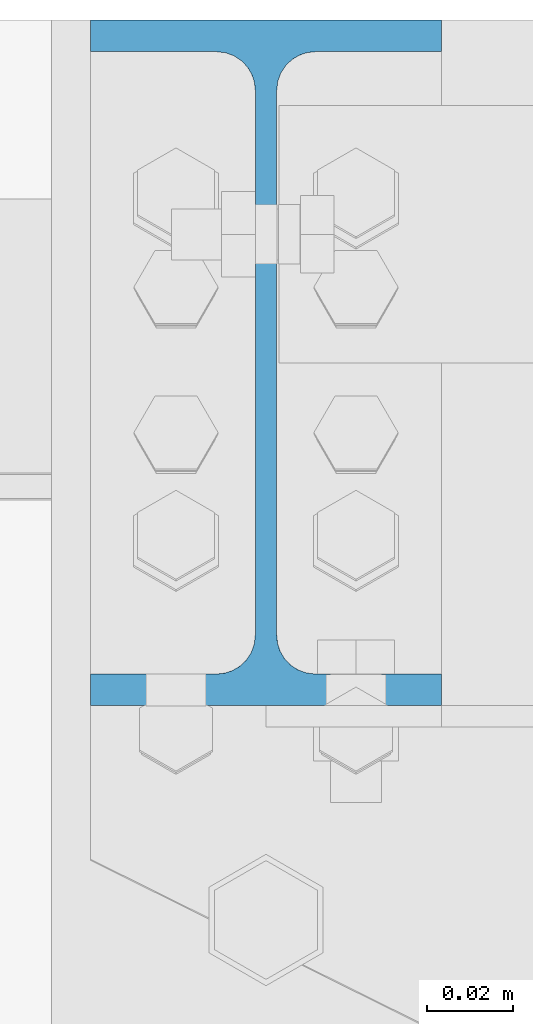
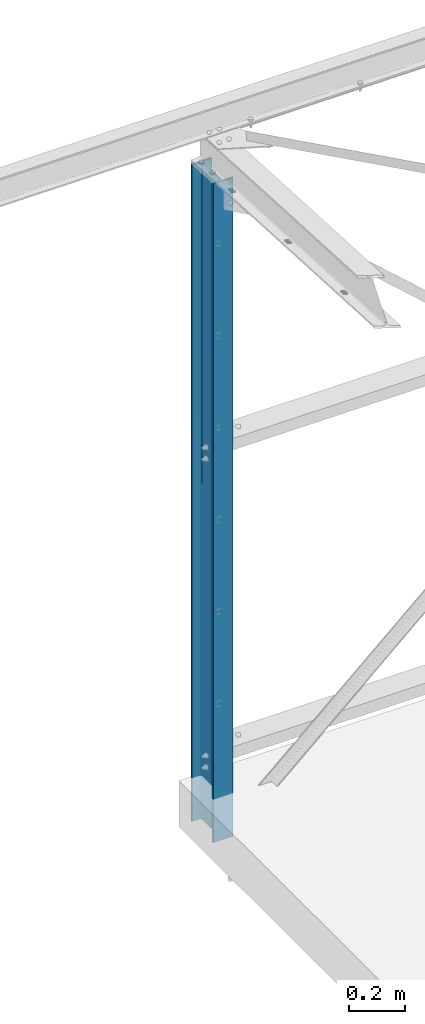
# One storey, part 14 of 362: 1 column, 1 element without a shape of its own.
"""IFC2X3 building model written with IfcOpenShell, lengths in millimetres."""

from ifc_helpers import new_model, si_unit, frame, origin_with_axes, origin_2d_with_axis, place, context, subcontext, project, spatial, i_section, extrude, clip, halfspace, material, type_object, element, aggregate, save


model = new_model("IFC2X3")

# Units and contexts
model_context = context("Model", 3, precision=1e-05, world=origin_with_axes())
body_context = subcontext(model_context, "Body", "Model", "MODEL_VIEW")
ifc_project = project(units=[si_unit("LENGTHUNIT", "METRE", prefix="MILLI"), si_unit("AREAUNIT", "SQUARE_METRE"), si_unit("VOLUMEUNIT", "CUBIC_METRE"), si_unit("MASSUNIT", "GRAM", prefix="KILO"), si_unit("TIMEUNIT", "SECOND"), si_unit("PLANEANGLEUNIT", "RADIAN"), si_unit("SOLIDANGLEUNIT", "STERADIAN"), si_unit("THERMODYNAMICTEMPERATUREUNIT", "DEGREE_CELSIUS"), si_unit("LUMINOUSINTENSITYUNIT", "LUMEN")], contexts=[model_context])

# Site, building, storey
site_placement = place(None, origin_with_axes())
site = spatial("IfcSite", under=ifc_project, at=site_placement, Name="Undefined", CompositionType="ELEMENT")
building_placement = place(site_placement, origin_with_axes())
building = spatial("IfcBuilding", under=site, at=building_placement, Name="Undefined", CompositionType="ELEMENT")
storey_placement = place(building_placement, origin_with_axes())
storey = spatial("IfcBuildingStorey", under=building, at=storey_placement, Name="Undefined", CompositionType="ELEMENT", Elevation=0.0)

# Assembly, column
assembly_placement = place(storey_placement, origin_with_axes())
assembly = element("IfcElementAssembly", 1, at=assembly_placement, inside=storey, Name="POTEAU", AssemblyPlace="NOTDEFINED", PredefinedType="NOTDEFINED")
ifc_material = material(Name="Undefined/S275-E28")
column_type = type_object("IfcColumnType", Name="IPE160", PredefinedType="NOTDEFINED")
column_placement = place(assembly_placement, frame((28902.9999389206, 29240.0000662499, -190.0), z_axis=(0.0, 0.0, 1.0), x_axis=(0.0, 1.0, 0.0)))
column = element("IfcColumn", 2, at=column_placement, type_object=column_type, material=ifc_material, Name="POTEAU", ObjectType="IPE160", context=body_context, shape_type="Clipping", body=[
    clip(extrude(i_section(OverallWidth=82.0, OverallDepth=160.0, WebThickness=5.0, FlangeThickness=7.400000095, FilletRadius=9.0, at=origin_2d_with_axis()), frame((0.0, 0.0, 2861.99932070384), z_axis=(0.0, 0.0, -1.0), x_axis=(0.0, 1.0, 0.0)), (0.0, 0.0, 1.0), 2862.0), halfspace(frame((-43.8956718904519, -3.13066266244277e-07, 2860.06623636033), z_axis=(-0.0523092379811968, 1.37715964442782e-08, -0.998630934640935), x_axis=(0.0, -1.0, 0.0)), True)),
])
aggregate(assembly, [column])

save(model, "model.ifc")
